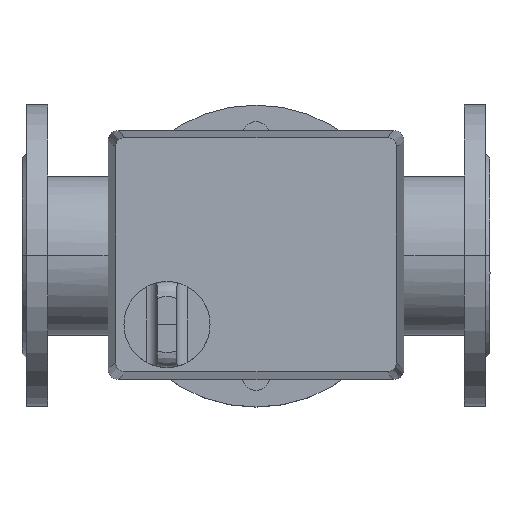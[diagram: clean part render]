
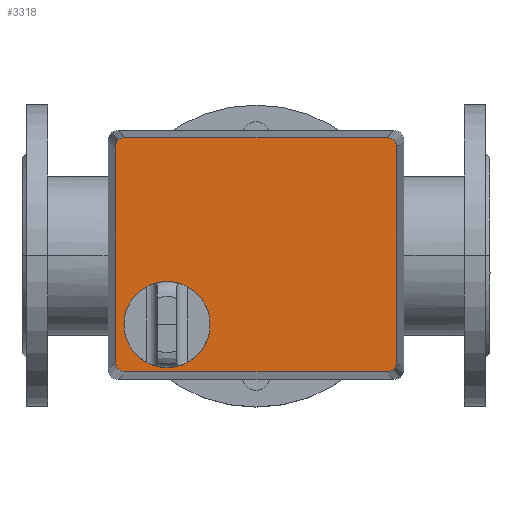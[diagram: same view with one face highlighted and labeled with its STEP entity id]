
A CAD part, top view. The second image highlights one B-rep face of the part: STEP entity #3318.
In plain terms, the highlighted planar face has unit normal (0, 0, 1).
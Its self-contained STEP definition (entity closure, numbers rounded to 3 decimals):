
#297=LINE('',#5696,#499);
#298=LINE('',#5700,#500);
#299=LINE('',#5704,#501);
#300=LINE('',#5708,#502);
#499=VECTOR('',#4552,304.8);
#500=VECTOR('',#4555,304.8);
#501=VECTOR('',#4558,304.8);
#502=VECTOR('',#4561,304.8);
#838=FACE_OUTER_BOUND('',#1064,.T.);
#1064=EDGE_LOOP('',(#2701,#2702,#2703,#2704,#2705,#2706,#2707,#2708));
#1285=CIRCLE('',#3685,6.);
#1286=CIRCLE('',#3686,6.);
#1287=CIRCLE('',#3687,6.);
#1288=CIRCLE('',#3688,6.);
#1563=VERTEX_POINT('',#5694);
#1564=VERTEX_POINT('',#5695);
#1565=VERTEX_POINT('',#5697);
#1566=VERTEX_POINT('',#5699);
#1567=VERTEX_POINT('',#5701);
#1568=VERTEX_POINT('',#5703);
#1569=VERTEX_POINT('',#5705);
#1570=VERTEX_POINT('',#5707);
#1957=EDGE_CURVE('',#1563,#1564,#297,.T.);
#1958=EDGE_CURVE('',#1564,#1565,#1285,.T.);
#1959=EDGE_CURVE('',#1565,#1566,#298,.T.);
#1960=EDGE_CURVE('',#1566,#1567,#1286,.T.);
#1961=EDGE_CURVE('',#1567,#1568,#299,.T.);
#1962=EDGE_CURVE('',#1568,#1569,#1287,.T.);
#1963=EDGE_CURVE('',#1569,#1570,#300,.T.);
#1964=EDGE_CURVE('',#1570,#1563,#1288,.T.);
#2701=ORIENTED_EDGE('',*,*,#1957,.T.);
#2702=ORIENTED_EDGE('',*,*,#1958,.T.);
#2703=ORIENTED_EDGE('',*,*,#1959,.T.);
#2704=ORIENTED_EDGE('',*,*,#1960,.T.);
#2705=ORIENTED_EDGE('',*,*,#1961,.T.);
#2706=ORIENTED_EDGE('',*,*,#1962,.T.);
#2707=ORIENTED_EDGE('',*,*,#1963,.T.);
#2708=ORIENTED_EDGE('',*,*,#1964,.T.);
#3006=PLANE('',#3684);
#3318=ADVANCED_FACE('',(#838),#3006,.T.);
#3684=AXIS2_PLACEMENT_3D('',#5693,#4550,#4551);
#3685=AXIS2_PLACEMENT_3D('',#5698,#4553,#4554);
#3686=AXIS2_PLACEMENT_3D('',#5702,#4556,#4557);
#3687=AXIS2_PLACEMENT_3D('',#5706,#4559,#4560);
#3688=AXIS2_PLACEMENT_3D('',#5709,#4562,#4563);
#4550=DIRECTION('center_axis',(0.,0.,1.));
#4551=DIRECTION('ref_axis',(0.,-1.,0.));
#4552=DIRECTION('',(0.,-1.,0.));
#4553=DIRECTION('center_axis',(0.,0.,1.));
#4554=DIRECTION('ref_axis',(1.,0.,0.));
#4555=DIRECTION('',(1.,0.,0.));
#4556=DIRECTION('center_axis',(0.,0.,1.));
#4557=DIRECTION('ref_axis',(1.,0.,0.));
#4558=DIRECTION('',(0.,1.,0.));
#4559=DIRECTION('center_axis',(0.,0.,1.));
#4560=DIRECTION('ref_axis',(1.,0.,0.));
#4561=DIRECTION('',(-1.,0.,0.));
#4562=DIRECTION('center_axis',(0.,0.,1.));
#4563=DIRECTION('ref_axis',(1.,0.,0.));
#5693=CARTESIAN_POINT('Origin',(0.,0.,
340.));
#5694=CARTESIAN_POINT('',(-77.5,87.,340.));
#5695=CARTESIAN_POINT('',(-77.5,-87.,340.));
#5696=CARTESIAN_POINT('',(-77.5,-87.,340.));
#5697=CARTESIAN_POINT('',(-71.5,-93.,340.));
#5698=CARTESIAN_POINT('Origin',(-71.5,-87.,340.));
#5699=CARTESIAN_POINT('',(71.5,-93.,340.));
#5700=CARTESIAN_POINT('',(71.5,-93.,340.));
#5701=CARTESIAN_POINT('',(77.5,-87.,340.));
#5702=CARTESIAN_POINT('Origin',(71.5,-87.,340.));
#5703=CARTESIAN_POINT('',(77.5,87.,340.));
#5704=CARTESIAN_POINT('',(77.5,87.,340.));
#5705=CARTESIAN_POINT('',(71.5,93.,340.));
#5706=CARTESIAN_POINT('Origin',(71.5,87.,340.));
#5707=CARTESIAN_POINT('',(-71.5,93.,340.));
#5708=CARTESIAN_POINT('',(-71.5,93.,340.));
#5709=CARTESIAN_POINT('Origin',(-71.5,87.,340.));
